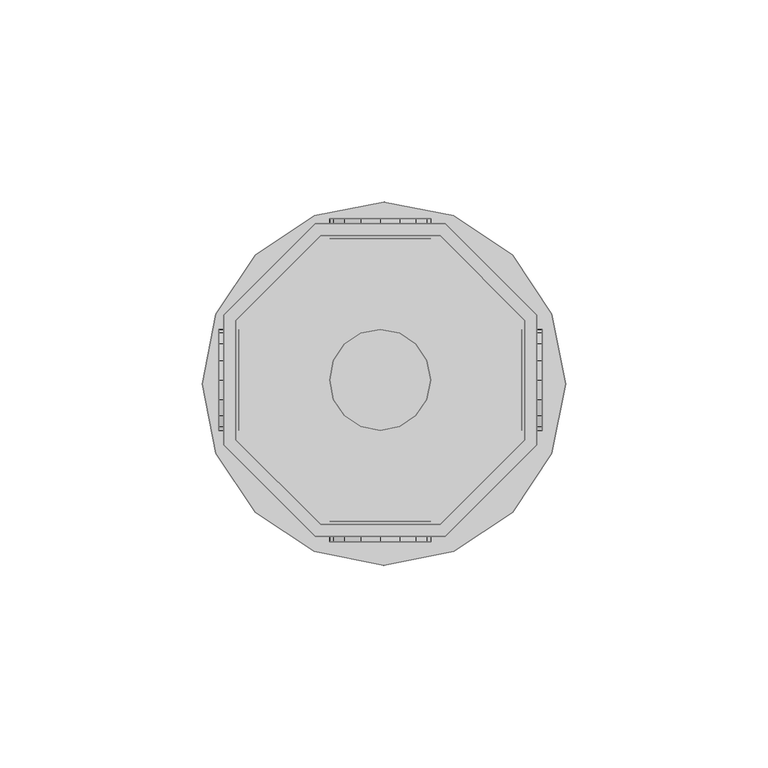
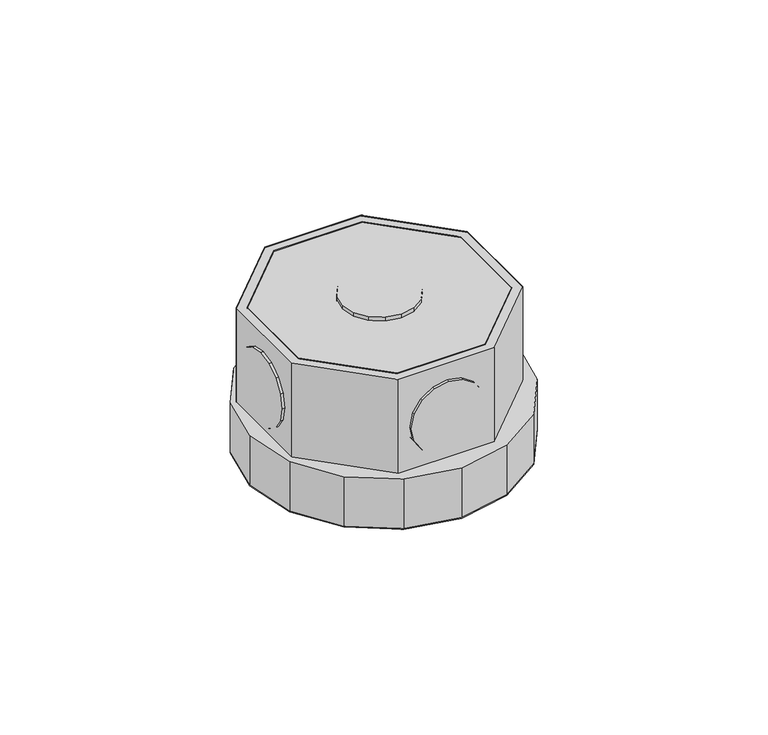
"""IFC4 building model written with IfcOpenShell, lengths in millimetres: light fixture geometry,  212498 :  212498."""

from ifc_helpers import new_model, si_unit, origin, place, context, project, spatial, triangles, source, transform, mapped, element, save


def light_fixture_65ba3b7c(model_context):
    return source(origin(), model_context, "Body", "Tessellation", [
        triangles([(31645.0009827, 9507.9498779, 2924.5999741), (31615.4004639, 9507.9498779, 2975.400071), (31615.4004639, 9507.9498779, 2924.5999741), (31645.0009827, 9507.9498779, 2975.400071), (31646.2009094, 9433.4497742, 2924.5999741), (31614.1005432, 9433.4497742, 2975.400071), (31614.1005432, 9433.4497742, 2924.5999741), (31646.2009094, 9433.4497742, 2975.400071), (31594.3994202, 9486.9499969, 2975.400071), (31594.3994202, 9486.9499969, 2924.5999741), (31668.8995239, 9456.1501328, 2924.5999741), (31668.8995239, 9456.1501328, 2975.400071), (31594.3994202, 9457.3500595, 2975.400071), (31594.3994202, 9457.3500595, 2924.5999741), (31668.8995239, 9488.2499176, 2924.5999741), (31668.8995239, 9488.2499176, 2975.400071), (31615.4004639, 9436.4501724, 2975.400071), (31615.4004639, 9436.4501724, 2924.5999741), (31646.2009094, 9510.9502762, 2924.5999741), (31646.2009094, 9510.9502762, 2975.400071), (31645.0009827, 9436.4501724, 2924.5999741), (31645.0009827, 9436.4501724, 2975.400071), (31614.1005432, 9510.9502762, 2975.400071), (31614.1005432, 9510.9502762, 2924.5999741), (31665.899707, 9457.3500595, 2924.5999741), (31665.899707, 9457.3500595, 2975.400071), (31591.3996033, 9488.2499176, 2975.400071), (31591.3996033, 9488.2499176, 2924.5999741), (31591.3996033, 9456.1501328, 2975.400071), (31665.899707, 9486.9499969, 2975.400071), (31665.899707, 9486.9499969, 2924.5999741), (31591.3996033, 9456.1501328, 2924.5999741), (31594.3994202, 9457.3500595, 2972.3999634), (31615.4004639, 9436.4501724, 2972.3999634), (31645.0009827, 9436.4501724, 2972.3999634), (31665.899707, 9457.3500595, 2972.3999634), (31665.899707, 9486.9499969, 2972.3999634), (31645.0009827, 9507.9498779, 2972.3999634), (31615.4004639, 9507.9498779, 2972.3999634), (31594.3994202, 9486.9499969, 2972.3999634), (31591.3996033, 9488.2499176, 2942.4000504), (31614.1005432, 9510.9502762, 2942.4000504), (31646.2009094, 9510.9502762, 2942.4000504), (31668.8995239, 9488.2499176, 2942.4000504), (31668.8995239, 9456.1501328, 2942.4000504), (31646.2009094, 9433.4497742, 2942.4000504), (31614.1005432, 9433.4497742, 2942.4000504), (31591.3996033, 9456.1501328, 2942.4000504), (31613.8005615, 9429.75, 2942.4000504), (31589.4997192, 9454.0502609, 2942.4000504), (31599.1991272, 9439.4499893, 2942.4000504), (31586.0999268, 9471.2497925, 2942.4000504), (31589.4997192, 9488.5498993, 2942.4000504), (31599.1991272, 9503.1501709, 2942.4000504), (31613.8005615, 9512.8501602, 2942.4000504), (31631.0995056, 9516.2499527, 2942.4000504), (31648.3007812, 9512.8501602, 2942.4000504), (31672.5992981, 9488.5498993, 2942.4000504), (31662.8998901, 9503.1501709, 2942.4000504), (31631.0995056, 9426.2502136, 2942.4000504), (31648.3007812, 9429.75, 2942.4000504), (31662.8998901, 9439.4499893, 2942.4000504), (31672.5992981, 9454.0502609, 2942.4000504), (31676.0990845, 9471.2497925, 2942.4000504), (31589.4997192, 9454.0502609, 2924.5999741), (31613.8005615, 9429.75, 2924.5999741), (31599.1991272, 9439.4499893, 2924.5999741), (31586.0999268, 9471.2497925, 2924.5999741), (31589.4997192, 9488.5498993, 2924.5999741), (31599.1991272, 9503.1501709, 2924.5999741), (31613.8005615, 9512.8501602, 2924.5999741), (31631.0995056, 9516.2499527, 2924.5999741), (31648.3007812, 9512.8501602, 2924.5999741), (31672.5992981, 9488.5498993, 2924.5999741), (31662.8998901, 9503.1501709, 2924.5999741), (31631.0995056, 9426.2502136, 2924.5999741), (31648.3007812, 9429.75, 2924.5999741), (31662.8998901, 9439.4499893, 2924.5999741), (31672.5992981, 9454.0502609, 2924.5999741), (31676.0990845, 9471.2497925, 2924.5999741), (31618.6002686, 9512.1502029, 2952.6000092), (31625.3998535, 9512.1502029, 2945.9001274), (31621.3001038, 9512.1502029, 2948.5999626), (31617.7003235, 9512.1502029, 2957.4000069), (31630.1995605, 9512.1502029, 2944.8998978), (31618.6002686, 9512.1502029, 2962.2000046), (31634.9992676, 9512.1502029, 2945.9001274), (31621.3001038, 9512.1502029, 2966.2000511), (31638.9990234, 9512.1502029, 2948.5999626), (31625.3998535, 9512.1502029, 2968.8998863), (31641.6988586, 9512.1502029, 2952.6000092), (31630.1995605, 9512.1502029, 2969.900116), (31642.701123, 9512.1502029, 2957.4000069), (31634.9992676, 9512.1502029, 2968.8998863), (31641.6988586, 9512.1502029, 2962.2000046), (31638.9990234, 9512.1502029, 2966.2000511), (31625.3998535, 9507.1499268, 2945.9001274), (31618.6002686, 9507.1499268, 2952.6000092), (31621.3001038, 9507.1499268, 2948.5999626), (31630.1995605, 9507.1499268, 2944.8998978), (31617.7003235, 9507.1499268, 2957.4000069), (31634.9992676, 9507.1499268, 2945.9001274), (31618.6002686, 9507.1499268, 2962.2000046), (31638.9990234, 9507.1499268, 2948.5999626), (31621.3001038, 9507.1499268, 2966.2000511), (31625.3998535, 9507.1499268, 2968.8998863), (31641.6988586, 9507.1499268, 2952.6000092), (31630.1995605, 9507.1499268, 2969.900116), (31642.701123, 9507.1499268, 2957.4000069), (31634.9992676, 9507.1499268, 2968.8998863), (31641.6988586, 9507.1499268, 2962.2000046), (31638.9990234, 9507.1499268, 2966.2000511), (31618.6002686, 9437.1501297, 2952.6000092), (31625.3998535, 9437.1501297, 2945.9001274), (31621.3001038, 9437.1501297, 2948.5999626), (31617.7003235, 9437.1501297, 2957.4000069), (31630.1995605, 9437.1501297, 2944.8998978), (31618.6002686, 9437.1501297, 2962.2000046), (31634.9992676, 9437.1501297, 2945.9001274), (31621.3001038, 9437.1501297, 2966.2000511), (31638.9990234, 9437.1501297, 2948.5999626), (31625.3998535, 9437.1501297, 2968.8998863), (31641.6988586, 9437.1501297, 2952.6000092), (31630.1995605, 9437.1501297, 2969.900116), (31642.701123, 9437.1501297, 2957.4000069), (31634.9992676, 9437.1501297, 2968.8998863), (31641.6988586, 9437.1501297, 2962.2000046), (31638.9990234, 9437.1501297, 2966.2000511), (31625.3998535, 9432.1498535, 2945.9001274), (31618.6002686, 9432.1498535, 2952.6000092), (31621.3001038, 9432.1498535, 2948.5999626), (31630.1995605, 9432.1498535, 2944.8998978), (31617.7003235, 9432.1498535, 2957.4000069), (31634.9992676, 9432.1498535, 2945.9001274), (31618.6002686, 9432.1498535, 2962.2000046), (31638.9990234, 9432.1498535, 2948.5999626), (31621.3001038, 9432.1498535, 2966.2000511), (31625.3998535, 9432.1498535, 2968.8998863), (31641.6988586, 9432.1498535, 2952.6000092), (31630.1995605, 9432.1498535, 2969.900116), (31642.701123, 9432.1498535, 2957.4000069), (31634.9992676, 9432.1498535, 2968.8998863), (31641.6988586, 9432.1498535, 2962.2000046), (31638.9990234, 9432.1498535, 2966.2000511), (31595.1993713, 9467.3500305, 2945.9001274), (31595.1993713, 9460.6498581, 2952.6000092), (31595.1993713, 9463.3502747, 2948.5999626), (31595.1993713, 9472.1497375, 2944.8998978), (31595.1993713, 9459.6499191, 2957.4000069), (31595.1993713, 9476.9500259, 2945.9001274), (31595.1993713, 9460.6498581, 2962.2000046), (31595.1993713, 9481.0497757, 2948.5999626), (31595.1993713, 9463.3502747, 2966.2000511), (31595.1993713, 9467.3500305, 2968.8998863), (31595.1993713, 9483.7501923, 2952.6000092), (31595.1993713, 9472.1497375, 2969.900116), (31595.1993713, 9484.6501373, 2957.4000069), (31595.1993713, 9476.9500259, 2968.8998863), (31595.1993713, 9483.7501923, 2962.2000046), (31595.1993713, 9481.0497757, 2966.2000511), (31590.1996765, 9460.6498581, 2952.6000092), (31590.1996765, 9467.3500305, 2945.9001274), (31590.1996765, 9463.3502747, 2948.5999626), (31590.1996765, 9459.6499191, 2957.4000069), (31590.1996765, 9472.1497375, 2944.8998978), (31590.1996765, 9460.6498581, 2962.2000046), (31590.1996765, 9476.9500259, 2945.9001274), (31590.1996765, 9463.3502747, 2966.2000511), (31590.1996765, 9481.0497757, 2948.5999626), (31590.1996765, 9467.3500305, 2968.8998863), (31590.1996765, 9483.7501923, 2952.6000092), (31590.1996765, 9472.1497375, 2969.900116), (31590.1996765, 9484.6501373, 2957.4000069), (31590.1996765, 9476.9500259, 2968.8998863), (31590.1996765, 9483.7501923, 2962.2000046), (31590.1996765, 9481.0497757, 2966.2000511), (31670.1994446, 9467.3500305, 2945.9001274), (31670.1994446, 9460.6498581, 2952.6000092), (31670.1994446, 9463.3502747, 2948.5999626), (31670.1994446, 9472.1497375, 2944.8998978), (31670.1994446, 9459.6499191, 2957.4000069), (31670.1994446, 9476.9500259, 2945.9001274), (31670.1994446, 9460.6498581, 2962.2000046), (31670.1994446, 9481.0497757, 2948.5999626), (31670.1994446, 9463.3502747, 2966.2000511), (31670.1994446, 9467.3500305, 2968.8998863), (31670.1994446, 9483.7501923, 2952.6000092), (31670.1994446, 9472.1497375, 2969.900116), (31670.1994446, 9484.6501373, 2957.4000069), (31670.1994446, 9476.9500259, 2968.8998863), (31670.1994446, 9483.7501923, 2962.2000046), (31670.1994446, 9481.0497757, 2966.2000511), (31665.1997498, 9460.6498581, 2952.6000092), (31665.1997498, 9467.3500305, 2945.9001274), (31665.1997498, 9463.3502747, 2948.5999626), (31665.1997498, 9459.6499191, 2957.4000069), (31665.1997498, 9472.1497375, 2944.8998978), (31665.1997498, 9460.6498581, 2962.2000046), (31665.1997498, 9476.9500259, 2945.9001274), (31665.1997498, 9463.3502747, 2966.2000511), (31665.1997498, 9481.0497757, 2948.5999626), (31665.1997498, 9467.3500305, 2968.8998863), (31665.1997498, 9483.7501923, 2952.6000092), (31665.1997498, 9472.1497375, 2969.900116), (31665.1997498, 9484.6501373, 2957.4000069), (31665.1997498, 9476.9500259, 2968.8998863), (31665.1997498, 9483.7501923, 2962.2000046), (31665.1997498, 9481.0497757, 2966.2000511), (31625.3998535, 9460.6498581, 2976.9999733), (31618.6002686, 9467.3500305, 2976.9999733), (31621.3001038, 9463.3502747, 2976.9999733), (31617.7003235, 9472.1497375, 2976.9999733), (31630.1995605, 9459.6499191, 2976.9999733), (31618.6002686, 9476.9500259, 2976.9999733), (31634.9992676, 9460.6498581, 2976.9999733), (31621.3001038, 9481.0497757, 2976.9999733), (31638.9990234, 9463.3502747, 2976.9999733), (31625.3998535, 9483.7501923, 2976.9999733), (31641.6988586, 9467.3500305, 2976.9999733), (31630.1995605, 9484.6501373, 2976.9999733), (31642.701123, 9472.1497375, 2976.9999733), (31634.9992676, 9483.7501923, 2976.9999733), (31641.6988586, 9476.9500259, 2976.9999733), (31638.9990234, 9481.0497757, 2976.9999733), (31618.6002686, 9467.3500305, 2971.9999878), (31625.3998535, 9460.6498581, 2971.9999878), (31621.3001038, 9463.3502747, 2971.9999878), (31617.7003235, 9472.1497375, 2971.9999878), (31630.1995605, 9459.6499191, 2971.9999878), (31618.6002686, 9476.9500259, 2971.9999878), (31634.9992676, 9460.6498581, 2971.9999878), (31621.3001038, 9481.0497757, 2971.9999878), (31638.9990234, 9463.3502747, 2971.9999878), (31625.3998535, 9483.7501923, 2971.9999878), (31641.6988586, 9467.3500305, 2971.9999878), (31630.1995605, 9484.6501373, 2971.9999878), (31642.701123, 9472.1497375, 2971.9999878), (31634.9992676, 9483.7501923, 2971.9999878), (31641.6988586, 9476.9500259, 2971.9999878), (31638.9990234, 9481.0497757, 2971.9999878)], [[1, 2, 3], [2, 1, 4], [5, 6, 7], [6, 5, 8], [3, 9, 10], [9, 3, 2], [11, 8, 5], [8, 11, 12], [10, 13, 14], [13, 10, 9], [15, 12, 11], [12, 15, 16], [14, 17, 18], [17, 14, 13], [19, 16, 15], [16, 19, 20], [17, 21, 18], [21, 17, 22], [23, 19, 24], [19, 23, 20], [22, 25, 21], [25, 22, 26], [27, 24, 28], [24, 27, 23], [6, 13, 29], [29, 13, 27], [27, 13, 9], [27, 9, 23], [23, 9, 2], [23, 2, 4], [23, 4, 20], [20, 4, 30], [8, 17, 6], [6, 17, 13], [17, 8, 22], [12, 22, 8], [22, 12, 26], [30, 26, 12], [16, 30, 12], [20, 30, 16], [30, 1, 31], [1, 30, 4], [6, 32, 7], [32, 6, 29], [32, 14, 7], [28, 14, 32], [14, 28, 10], [24, 10, 28], [10, 24, 3], [1, 3, 24], [19, 1, 24], [31, 1, 19], [7, 18, 5], [14, 18, 7], [5, 18, 21], [5, 21, 11], [11, 21, 25], [11, 25, 31], [11, 31, 15], [15, 31, 19], [26, 31, 25], [31, 26, 30], [29, 28, 32], [28, 29, 27], [17, 33, 34], [33, 17, 13], [35, 17, 34], [17, 35, 22], [36, 22, 35], [22, 36, 26], [37, 26, 36], [26, 37, 30], [38, 30, 37], [30, 38, 4], [2, 38, 39], [38, 2, 4], [17, 9, 13], [9, 17, 22], [9, 22, 2], [2, 22, 26], [2, 26, 4], [4, 26, 30], [13, 40, 33], [40, 13, 9], [40, 34, 33], [35, 34, 40], [35, 40, 39], [35, 39, 36], [36, 39, 38], [36, 38, 37], [9, 39, 40], [39, 9, 2], [24, 41, 28], [41, 24, 42], [19, 42, 24], [42, 19, 43], [44, 19, 15], [19, 44, 43], [45, 15, 11], [15, 45, 44], [46, 11, 5], [11, 46, 45], [47, 5, 7], [5, 47, 46], [32, 47, 7], [47, 32, 48], [28, 48, 32], [48, 28, 41], [49, 50, 51], [48, 50, 49], [50, 48, 52], [41, 52, 48], [52, 41, 53], [53, 41, 54], [42, 54, 41], [54, 42, 55], [55, 42, 43], [55, 43, 56], [56, 43, 57], [57, 43, 44], [57, 44, 58], [57, 58, 59], [47, 49, 60], [49, 47, 48], [47, 60, 46], [61, 46, 60], [46, 61, 62], [46, 62, 45], [45, 62, 63], [44, 45, 63], [44, 63, 64], [44, 64, 58], [65, 66, 67], [66, 65, 32], [68, 32, 65], [32, 68, 28], [28, 68, 69], [70, 28, 69], [28, 70, 24], [71, 24, 70], [19, 24, 71], [19, 71, 72], [73, 19, 72], [19, 73, 15], [74, 15, 73], [74, 73, 75], [76, 66, 7], [32, 7, 66], [5, 76, 7], [76, 5, 77], [77, 5, 78], [11, 78, 5], [78, 11, 79], [79, 11, 15], [79, 15, 80], [80, 15, 74], [57, 75, 73], [75, 57, 59], [56, 73, 72], [73, 56, 57], [55, 72, 71], [72, 55, 56], [54, 71, 70], [71, 54, 55], [53, 70, 69], [70, 53, 54], [52, 69, 68], [69, 52, 53], [50, 68, 65], [68, 50, 52], [51, 65, 67], [65, 51, 50], [66, 51, 67], [51, 66, 49], [76, 49, 66], [49, 76, 60], [77, 60, 76], [60, 77, 61], [78, 61, 77], [61, 78, 62], [79, 62, 78], [62, 79, 63], [80, 63, 79], [63, 80, 64], [75, 58, 74], [58, 75, 59], [74, 64, 80], [64, 74, 58], [81, 82, 83], [82, 81, 84], [85, 82, 84], [85, 84, 86], [87, 85, 86], [87, 86, 88], [87, 88, 89], [89, 88, 90], [89, 90, 91], [91, 90, 92], [91, 92, 93], [93, 92, 94], [93, 94, 95], [95, 94, 96], [97, 98, 99], [98, 97, 100], [101, 98, 100], [101, 100, 102], [103, 101, 102], [103, 102, 104], [103, 104, 105], [105, 104, 106], [106, 104, 107], [106, 107, 108], [108, 107, 109], [108, 109, 110], [110, 109, 111], [110, 111, 112], [87, 104, 102], [104, 87, 89], [85, 102, 100], [102, 85, 87], [82, 100, 97], [100, 82, 85], [83, 97, 99], [97, 83, 82], [98, 83, 99], [83, 98, 81], [101, 81, 98], [81, 101, 84], [103, 84, 101], [84, 103, 86], [105, 86, 103], [86, 105, 88], [106, 88, 105], [88, 106, 90], [108, 90, 106], [90, 108, 92], [110, 92, 108], [92, 110, 94], [112, 94, 110], [94, 112, 96], [95, 112, 111], [112, 95, 96], [93, 111, 109], [111, 93, 95], [89, 107, 104], [107, 89, 91], [91, 109, 107], [109, 91, 93], [113, 114, 115], [114, 113, 116], [117, 114, 116], [117, 116, 118], [119, 117, 118], [119, 118, 120], [119, 120, 121], [121, 120, 122], [121, 122, 123], [123, 122, 124], [123, 124, 125], [125, 124, 126], [125, 126, 127], [127, 126, 128], [129, 130, 131], [130, 129, 132], [133, 130, 132], [133, 132, 134], [135, 133, 134], [135, 134, 136], [135, 136, 137], [137, 136, 138], [138, 136, 139], [138, 139, 140], [140, 139, 141], [140, 141, 142], [142, 141, 143], [142, 143, 144], [119, 136, 134], [136, 119, 121], [117, 134, 132], [134, 117, 119], [114, 132, 129], [132, 114, 117], [115, 129, 131], [129, 115, 114], [130, 115, 131], [115, 130, 113], [133, 113, 130], [113, 133, 116], [135, 116, 133], [116, 135, 118], [137, 118, 135], [118, 137, 120], [138, 120, 137], [120, 138, 122], [140, 122, 138], [122, 140, 124], [142, 124, 140], [124, 142, 126], [144, 126, 142], [126, 144, 128], [127, 144, 143], [144, 127, 128], [125, 143, 141], [143, 125, 127], [121, 139, 136], [139, 121, 123], [123, 141, 139], [141, 123, 125], [145, 146, 147], [146, 145, 148], [149, 146, 148], [149, 148, 150], [151, 149, 150], [151, 150, 152], [151, 152, 153], [153, 152, 154], [154, 152, 155], [154, 155, 156], [156, 155, 157], [156, 157, 158], [158, 157, 159], [158, 159, 160], [161, 162, 163], [162, 161, 164], [165, 162, 164], [165, 164, 166], [167, 165, 166], [167, 166, 168], [169, 167, 168], [169, 168, 170], [169, 170, 171], [171, 170, 172], [171, 172, 173], [173, 172, 174], [173, 174, 175], [175, 174, 176], [158, 176, 174], [176, 158, 160], [156, 174, 172], [174, 156, 158], [154, 172, 170], [172, 154, 156], [153, 170, 168], [170, 153, 154], [151, 168, 166], [168, 151, 153], [149, 166, 164], [166, 149, 151], [146, 164, 161], [164, 146, 149], [147, 161, 163], [161, 147, 146], [162, 147, 163], [147, 162, 145], [165, 145, 162], [145, 165, 148], [167, 148, 165], [148, 167, 150], [169, 150, 167], [150, 169, 152], [171, 152, 169], [152, 171, 155], [173, 155, 171], [155, 173, 157], [176, 159, 175], [159, 176, 160], [175, 157, 173], [157, 175, 159], [177, 178, 179], [178, 177, 180], [181, 178, 180], [181, 180, 182], [183, 181, 182], [183, 182, 184], [183, 184, 185], [185, 184, 186], [186, 184, 187], [186, 187, 188], [188, 187, 189], [188, 189, 190], [190, 189, 191], [190, 191, 192], [193, 194, 195], [194, 193, 196], [197, 194, 196], [197, 196, 198], [199, 197, 198], [199, 198, 200], [201, 199, 200], [201, 200, 202], [201, 202, 203], [203, 202, 204], [203, 204, 205], [205, 204, 206], [205, 206, 207], [207, 206, 208], [190, 208, 206], [208, 190, 192], [188, 206, 204], [206, 188, 190], [186, 204, 202], [204, 186, 188], [185, 202, 200], [202, 185, 186], [183, 200, 198], [200, 183, 185], [181, 198, 196], [198, 181, 183], [178, 196, 193], [196, 178, 181], [179, 193, 195], [193, 179, 178], [194, 179, 195], [179, 194, 177], [197, 177, 194], [177, 197, 180], [199, 180, 197], [180, 199, 182], [201, 182, 199], [182, 201, 184], [203, 184, 201], [184, 203, 187], [205, 187, 203], [187, 205, 189], [208, 191, 207], [191, 208, 192], [207, 189, 205], [189, 207, 191], [209, 210, 211], [212, 210, 209], [212, 209, 213], [214, 212, 213], [214, 213, 215], [216, 214, 215], [216, 215, 217], [216, 217, 218], [218, 217, 219], [218, 219, 220], [220, 219, 221], [220, 221, 222], [222, 221, 223], [222, 223, 224], [225, 226, 227], [226, 225, 228], [229, 226, 228], [229, 228, 230], [231, 229, 230], [231, 230, 232], [231, 232, 233], [233, 232, 234], [233, 234, 235], [235, 234, 236], [235, 236, 237], [237, 236, 238], [237, 238, 239], [239, 238, 240], [222, 240, 238], [240, 222, 224], [220, 238, 236], [238, 220, 222], [218, 236, 234], [236, 218, 220], [216, 234, 232], [234, 216, 218], [214, 232, 230], [232, 214, 216], [212, 230, 228], [230, 212, 214], [210, 228, 225], [228, 210, 212], [211, 225, 227], [225, 211, 210], [226, 211, 227], [211, 226, 209], [229, 209, 226], [209, 229, 213], [231, 213, 229], [213, 231, 215], [233, 215, 231], [215, 233, 217], [235, 217, 233], [217, 235, 219], [237, 219, 235], [219, 237, 221], [240, 223, 239], [223, 240, 224], [239, 221, 237], [221, 239, 223]], closed=False),
    ])


if __name__ == "__main__":
    model = new_model("IFC4")
    model_context = context("Model", 3, world=origin())
    ifc_project = project(units=[si_unit("LENGTHUNIT", "METRE", prefix="MILLI")], contexts=[model_context])
    site = spatial("IfcSite", under=ifc_project)
    building = spatial("IfcBuilding", under=site)
    placement = place(None, origin())
    light_fixture_shape = light_fixture_65ba3b7c(model_context)
    element("IfcLightFixture", 1, ObjectType=" 212498 :  212498", at=placement, inside=building, context=model_context, shape_type="MappedRepresentation", body=[
        mapped(light_fixture_shape, transform((0.0, 0.0, 0.0), x_axis=(1.0, 0.0, 0.0), y_axis=(0.0, 1.0, 0.0), z_axis=(0.0, 0.0, 1.0))),
    ])
    save(model, "model.ifc")
